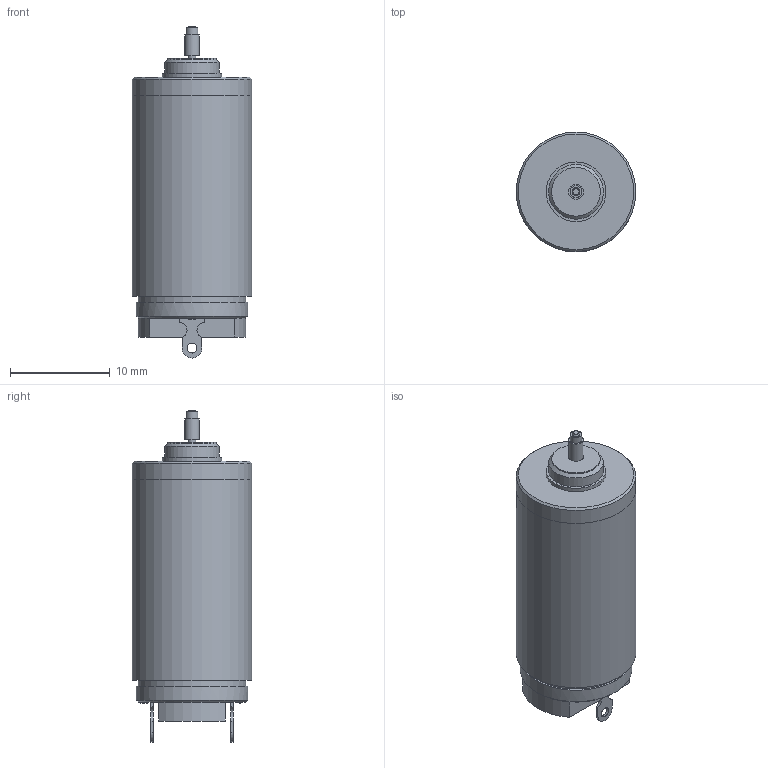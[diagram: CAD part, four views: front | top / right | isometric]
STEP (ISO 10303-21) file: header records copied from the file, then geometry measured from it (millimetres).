
FILE_DESCRIPTION(/* description */ (''),/* implementation_level */ '2;1');
FILE_NAME(/* name */ '1224N_S+SR.stp',/* time_stamp */ '2013-10-18T14:48:37+02:00',/* author */ ('DR. FRITZ FAULHABER GmbH & Co. KG'),/* organization */ ('DR. FRITZ FAULHABER GmbH & Co. KG'),/* preprocessor_version */ 'ST-DEVELOPER v11',/* originating_system */ 'SIEMENS PLM Software NX 7.5',/* authorisation */ '');
FILE_SCHEMA (('AUTOMOTIVE_DESIGN { 1 0 10303 214 1 1 1 1 }'));
Length unit declared in the file: millimetre
Products named in the file (1): Alle
Bounding box: 12 x 12 x 33.35 mm (x, y, z)
Volume: 2880.8 mm3; surface area: 1273.2 mm2
Topology: 1 solids, 1 shells, 71 faces, 161 edges, 106 vertices
Faces by surface type: plane 46, cylinder 21, cone 4
Full cylindrical faces by diameter (mm): 0.8 x1, 1 x2, 1.2 x1, 1.5 x1, 4.887 x1, 5.5 x1, 6 x1, 10.8 x1, 11.2 x1, 11.999 x1, 12 x2
Entity records: 1892 total; most frequent: DIRECTION 330, CARTESIAN_POINT 312, ORIENTED_EDGE 278, EDGE_CURVE 139, AXIS2_PLACEMENT_3D 119, EDGE_LOOP 106, VERTEX_POINT 101, LINE 92
